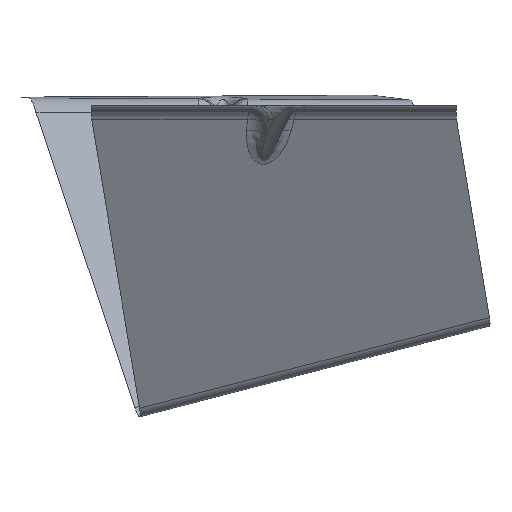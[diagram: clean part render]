
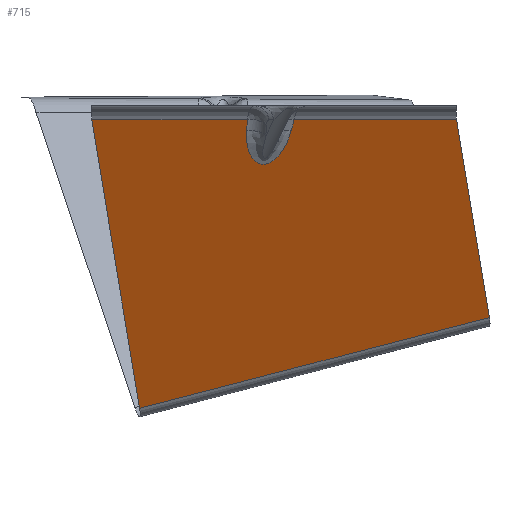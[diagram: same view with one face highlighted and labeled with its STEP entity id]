
A CAD part, left-side view. The second image highlights one B-rep face of the part: STEP entity #715.
In plain terms, the highlighted planar face has unit normal (-0.83, -0.249, -0.5).
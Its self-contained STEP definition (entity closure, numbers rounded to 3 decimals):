
#254=CARTESIAN_POINT('Vertex',(-88.715,7.386,-1.25)) ;
#277=CARTESIAN_POINT('Line Origine',(-70.808,9.49,-32.005)) ;
#281=CARTESIAN_POINT('Vertex',(-86.974,7.591,-4.241)) ;
#597=CARTESIAN_POINT('Control Point',(-83.295,-4.672,-4.241)) ;
#598=CARTESIAN_POINT('Control Point',(-83.086,-4.567,-4.64)) ;
#599=CARTESIAN_POINT('Control Point',(-82.88,-4.451,-5.039)) ;
#600=CARTESIAN_POINT('Control Point',(-82.678,-4.326,-5.437)) ;
#601=CARTESIAN_POINT('Control Point',(-82.109,-3.935,-6.576)) ;
#602=CARTESIAN_POINT('Control Point',(-81.573,-3.451,-7.705)) ;
#603=CARTESIAN_POINT('Control Point',(-81.243,-3.095,-8.43)) ;
#604=CARTESIAN_POINT('Control Point',(-80.801,-2.52,-9.449)) ;
#605=CARTESIAN_POINT('Control Point',(-80.418,-1.818,-10.434)) ;
#606=CARTESIAN_POINT('Control Point',(-80.312,-1.601,-10.719)) ;
#607=CARTESIAN_POINT('Control Point',(-80.129,-1.179,-11.231)) ;
#608=CARTESIAN_POINT('Control Point',(-79.975,-0.705,-11.723)) ;
#609=CARTESIAN_POINT('Control Point',(-79.912,-0.479,-11.94)) ;
#610=CARTESIAN_POINT('Control Point',(-79.814,-0.051,-12.316)) ;
#611=CARTESIAN_POINT('Control Point',(-79.749,0.427,-12.662)) ;
#612=CARTESIAN_POINT('Control Point',(-79.728,0.648,-12.807)) ;
#613=CARTESIAN_POINT('Control Point',(-79.702,1.152,-13.1)) ;
#614=CARTESIAN_POINT('Control Point',(-79.73,1.711,-13.332)) ;
#615=CARTESIAN_POINT('Control Point',(-79.765,2.032,-13.434)) ;
#616=CARTESIAN_POINT('Control Point',(-79.863,2.587,-13.547)) ;
#617=CARTESIAN_POINT('Control Point',(-80.027,3.143,-13.552)) ;
#618=CARTESIAN_POINT('Control Point',(-80.103,3.363,-13.536)) ;
#619=CARTESIAN_POINT('Control Point',(-80.272,3.79,-13.468)) ;
#620=CARTESIAN_POINT('Control Point',(-80.466,4.179,-13.339)) ;
#621=CARTESIAN_POINT('Control Point',(-80.568,4.363,-13.262)) ;
#622=CARTESIAN_POINT('Control Point',(-80.792,4.733,-13.074)) ;
#623=CARTESIAN_POINT('Control Point',(-81.025,5.056,-12.849)) ;
#624=CARTESIAN_POINT('Control Point',(-81.151,5.216,-12.72)) ;
#625=CARTESIAN_POINT('Control Point',(-81.434,5.551,-12.417)) ;
#626=CARTESIAN_POINT('Control Point',(-81.718,5.835,-12.087)) ;
#627=CARTESIAN_POINT('Control Point',(-81.875,5.98,-11.899)) ;
#628=CARTESIAN_POINT('Control Point',(-82.231,6.284,-11.458)) ;
#629=CARTESIAN_POINT('Control Point',(-82.584,6.534,-10.998)) ;
#630=CARTESIAN_POINT('Control Point',(-82.78,6.66,-10.736)) ;
#631=CARTESIAN_POINT('Control Point',(-83.22,6.918,-10.133)) ;
#632=CARTESIAN_POINT('Control Point',(-83.653,7.117,-9.515)) ;
#633=CARTESIAN_POINT('Control Point',(-83.892,7.213,-9.167)) ;
#634=CARTESIAN_POINT('Control Point',(-84.418,7.397,-8.384)) ;
#635=CARTESIAN_POINT('Control Point',(-84.933,7.517,-7.59)) ;
#636=CARTESIAN_POINT('Control Point',(-85.214,7.567,-7.149)) ;
#637=CARTESIAN_POINT('Control Point',(-85.741,7.631,-6.306)) ;
#638=CARTESIAN_POINT('Control Point',(-86.257,7.642,-5.456)) ;
#639=CARTESIAN_POINT('Control Point',(-86.499,7.636,-5.052)) ;
#640=CARTESIAN_POINT('Control Point',(-86.738,7.619,-4.646)) ;
#641=CARTESIAN_POINT('Control Point',(-86.974,7.591,-4.241)) ;
#642=CARTESIAN_POINT('Vertex',(-83.295,-4.672,-4.241)) ;
#660=CARTESIAN_POINT('Axis2P3D Location',(-39.578,-11.873,-73.184)) ;
#665=CARTESIAN_POINT('Line Origine',(-84.078,-5.066,-2.745)) ;
#669=CARTESIAN_POINT('Vertex',(-84.862,-5.459,-1.25)) ;
#672=CARTESIAN_POINT('Line Origine',(-95.116,28.723,-1.25)) ;
#676=CARTESIAN_POINT('Vertex',(-101.518,50.061,-1.25)) ;
#679=CARTESIAN_POINT('Line Origine',(-75.689,43.494,-40.832)) ;
#683=CARTESIAN_POINT('Vertex',(-49.86,36.927,-80.413)) ;
#686=CARTESIAN_POINT('Line Origine',(-42.979,-11.008,-67.971)) ;
#690=CARTESIAN_POINT('Vertex',(-36.099,-58.944,-55.528)) ;
#693=CARTESIAN_POINT('Line Origine',(-53.808,-54.442,-28.389)) ;
#697=CARTESIAN_POINT('Vertex',(-71.518,-49.939,-1.25)) ;
#700=CARTESIAN_POINT('Line Origine',(-78.19,-27.699,-1.25)) ;
#278=DIRECTION('Vector Direction',(0.502,0.059,-0.863)) ;
#661=DIRECTION('Axis2P3D Direction',(0.83,0.249,0.5)) ;
#662=DIRECTION('Axis2P3D XDirection',(0.541,-0.138,-0.83)) ;
#666=DIRECTION('Vector Direction',(-0.452,-0.227,0.863)) ;
#673=DIRECTION('Vector Direction',(0.287,-0.958,0.)) ;
#680=DIRECTION('Vector Direction',(0.541,-0.138,-0.83)) ;
#687=DIRECTION('Vector Direction',(0.138,-0.959,0.249)) ;
#694=DIRECTION('Vector Direction',(-0.541,0.138,0.83)) ;
#701=DIRECTION('Vector Direction',(0.287,-0.958,0.)) ;
#663=AXIS2_PLACEMENT_3D('Plane Axis2P3D',#660,#661,#662) ;
#706=ORIENTED_EDGE('',*,*,#671,.T.) ;
#707=ORIENTED_EDGE('',*,*,#644,.T.) ;
#708=ORIENTED_EDGE('',*,*,#283,.T.) ;
#709=ORIENTED_EDGE('',*,*,#678,.F.) ;
#710=ORIENTED_EDGE('',*,*,#685,.T.) ;
#711=ORIENTED_EDGE('',*,*,#692,.T.) ;
#712=ORIENTED_EDGE('',*,*,#699,.T.) ;
#713=ORIENTED_EDGE('',*,*,#704,.F.) ;
#279=VECTOR('Line Direction',#278,1.) ;
#667=VECTOR('Line Direction',#666,1.) ;
#674=VECTOR('Line Direction',#673,1.) ;
#681=VECTOR('Line Direction',#680,1.) ;
#688=VECTOR('Line Direction',#687,1.) ;
#695=VECTOR('Line Direction',#694,1.) ;
#702=VECTOR('Line Direction',#701,1.) ;
#715=ADVANCED_FACE('Extract.1',(#714),#664,.F.) ;
#596=B_SPLINE_CURVE_WITH_KNOTS('',5,(#597,#598,#599,#600,#601,#602,#603,#604,#605,#606,#607,#608,#609,#610,#611,#612,#613,#614,#615,#616,#617,#618,#619,#620,#621,#622,#623,#624,#625,#626,#627,#628,#629,#630,#631,#632,#633,#634,#635,#636,#637,#638,#639,#640,#641),.UNSPECIFIED.,.F.,.U.,(6,3,3,3,3,3,3,3,3,3,3,3,3,3,6),(22.887,25.969,31.711,34.092,36.055,37.599,39.399,40.614,41.836,43.232,44.971,47.191,49.998,53.445,56.577),.UNSPECIFIED.) ;
#283=EDGE_CURVE('',#282,#255,#280,.F.) ;
#644=EDGE_CURVE('',#643,#282,#596,.T.) ;
#671=EDGE_CURVE('',#670,#643,#668,.F.) ;
#678=EDGE_CURVE('',#677,#255,#675,.T.) ;
#685=EDGE_CURVE('',#677,#684,#682,.T.) ;
#692=EDGE_CURVE('',#684,#691,#689,.T.) ;
#699=EDGE_CURVE('',#691,#698,#696,.T.) ;
#704=EDGE_CURVE('',#670,#698,#703,.T.) ;
#705=EDGE_LOOP('',(#706,#707,#708,#709,#710,#711,#712,#713)) ;
#714=FACE_OUTER_BOUND('',#705,.T.) ;
#280=LINE('Line',#277,#279) ;
#668=LINE('Line',#665,#667) ;
#675=LINE('Line',#672,#674) ;
#682=LINE('Line',#679,#681) ;
#689=LINE('Line',#686,#688) ;
#696=LINE('Line',#693,#695) ;
#703=LINE('Line',#700,#702) ;
#664=PLANE('',#663) ;
#255=VERTEX_POINT('',#254) ;
#282=VERTEX_POINT('',#281) ;
#643=VERTEX_POINT('',#642) ;
#670=VERTEX_POINT('',#669) ;
#677=VERTEX_POINT('',#676) ;
#684=VERTEX_POINT('',#683) ;
#691=VERTEX_POINT('',#690) ;
#698=VERTEX_POINT('',#697) ;
